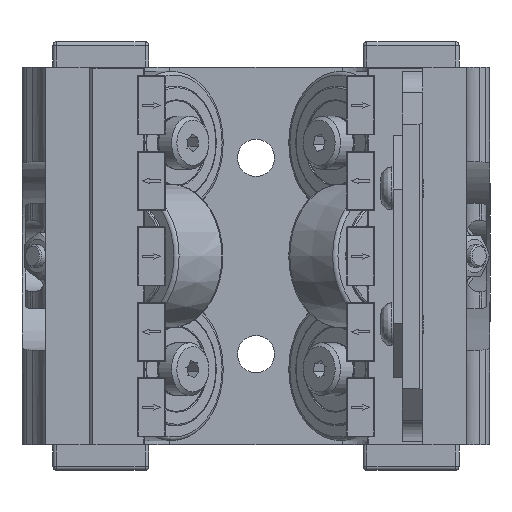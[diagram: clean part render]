
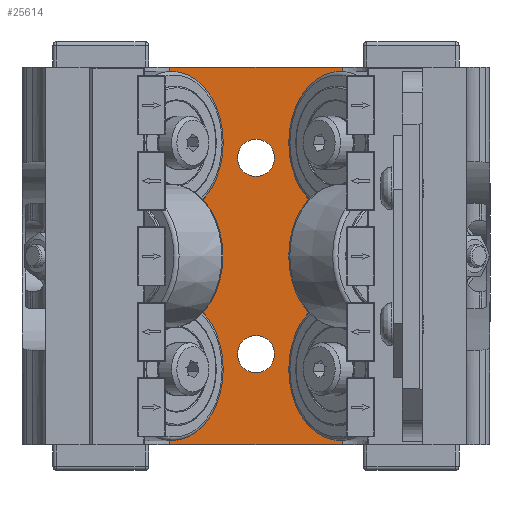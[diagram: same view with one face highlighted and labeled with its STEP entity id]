
A CAD part, front view. The second image highlights one B-rep face of the part: STEP entity #25614.
In plain terms, the highlighted planar face has unit normal (0, -1, 0).
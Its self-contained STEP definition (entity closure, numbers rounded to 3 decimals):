
#727=LINE('',#38216,#2841);
#775=LINE('',#38379,#2889);
#850=LINE('',#38852,#2964);
#924=LINE('',#39254,#3038);
#2841=VECTOR('',#30649,10.);
#2889=VECTOR('',#30767,10.);
#2964=VECTOR('',#31122,10.);
#3038=VECTOR('',#31408,10.);
#5262=FACE_BOUND('',#7393,.T.);
#5263=FACE_BOUND('',#7394,.T.);
#5264=FACE_BOUND('',#7395,.T.);
#5895=FACE_OUTER_BOUND('',#7392,.T.);
#7392=EDGE_LOOP('',(#18468,#18469,#18470,#18471));
#7393=EDGE_LOOP('',(#18472));
#7394=EDGE_LOOP('',(#18473));
#7395=EDGE_LOOP('',(#18474,#18475));
#8397=CIRCLE('',#26572,2.459);
#8400=CIRCLE('',#26576,2.459);
#9007=CIRCLE('',#27715,0.795);
#9008=CIRCLE('',#27716,0.795);
#9644=VERTEX_POINT('',#36611);
#9647=VERTEX_POINT('',#36619);
#10104=VERTEX_POINT('',#38213);
#10105=VERTEX_POINT('',#38215);
#10184=VERTEX_POINT('',#38376);
#10185=VERTEX_POINT('',#38378);
#10599=VERTEX_POINT('',#40084);
#10600=VERTEX_POINT('',#40085);
#12042=EDGE_CURVE('',#9644,#9644,#8397,.T.);
#12046=EDGE_CURVE('',#9647,#9647,#8400,.T.);
#12672=EDGE_CURVE('',#10104,#10105,#727,.T.);
#12754=EDGE_CURVE('',#10185,#10184,#775,.T.);
#12934=EDGE_CURVE('',#10184,#10105,#850,.T.);
#13079=EDGE_CURVE('',#10185,#10104,#924,.T.);
#13433=EDGE_CURVE('',#10599,#10600,#9007,.T.);
#13434=EDGE_CURVE('',#10600,#10599,#9008,.T.);
#18468=ORIENTED_EDGE('',*,*,#12672,.F.);
#18469=ORIENTED_EDGE('',*,*,#13079,.F.);
#18470=ORIENTED_EDGE('',*,*,#12754,.T.);
#18471=ORIENTED_EDGE('',*,*,#12934,.T.);
#18472=ORIENTED_EDGE('',*,*,#12046,.T.);
#18473=ORIENTED_EDGE('',*,*,#12042,.T.);
#18474=ORIENTED_EDGE('',*,*,#13433,.F.);
#18475=ORIENTED_EDGE('',*,*,#13434,.F.);
#23200=PLANE('',#27714);
#25614=ADVANCED_FACE('',(#5895,#5262,#5263,#5264),#23200,.T.);
#26572=AXIS2_PLACEMENT_3D('',#36613,#29259,#29260);
#26576=AXIS2_PLACEMENT_3D('',#36621,#29268,#29269);
#27714=AXIS2_PLACEMENT_3D('',#40083,#32164,#32165);
#27715=AXIS2_PLACEMENT_3D('',#40086,#32166,#32167);
#27716=AXIS2_PLACEMENT_3D('',#40087,#32168,#32169);
#29259=DIRECTION('center_axis',(0.,1.,0.));
#29260=DIRECTION('ref_axis',(1.,0.,0.));
#29268=DIRECTION('center_axis',(0.,1.,0.));
#29269=DIRECTION('ref_axis',(1.,0.,0.));
#30649=DIRECTION('',(1.,0.,0.));
#30767=DIRECTION('',(1.,0.,0.));
#31122=DIRECTION('',(0.,0.,1.));
#31408=DIRECTION('',(0.,0.,1.));
#32164=DIRECTION('center_axis',(0.,-1.,0.));
#32165=DIRECTION('ref_axis',(-1.,0.,0.));
#32166=DIRECTION('center_axis',(0.,-1.,0.));
#32167=DIRECTION('ref_axis',(1.,0.,0.));
#32168=DIRECTION('center_axis',(0.,-1.,0.));
#32169=DIRECTION('ref_axis',(1.,0.,0.));
#36611=CARTESIAN_POINT('',(-2.459,20.9,-13.));
#36613=CARTESIAN_POINT('Origin',(0.,20.9,-13.));
#36619=CARTESIAN_POINT('',(-2.459,20.9,13.));
#36621=CARTESIAN_POINT('Origin',(0.,20.9,13.));
#38213=CARTESIAN_POINT('',(-11.432,20.9,25.));
#38215=CARTESIAN_POINT('',(11.432,20.9,25.));
#38216=CARTESIAN_POINT('',(-11.432,20.9,25.));
#38376=CARTESIAN_POINT('',(11.432,20.9,-25.));
#38378=CARTESIAN_POINT('',(-11.432,20.9,-25.));
#38379=CARTESIAN_POINT('',(11.432,20.9,-25.));
#38852=CARTESIAN_POINT('',(11.432,20.9,0.));
#39254=CARTESIAN_POINT('',(-11.432,20.9,0.));
#40083=CARTESIAN_POINT('Origin',(7.5,20.9,14.205));
#40084=CARTESIAN_POINT('',(7.5,20.9,14.205));
#40085=CARTESIAN_POINT('',(7.5,20.9,15.795));
#40086=CARTESIAN_POINT('Origin',(7.5,20.9,15.));
#40087=CARTESIAN_POINT('Origin',(7.5,20.9,15.));
